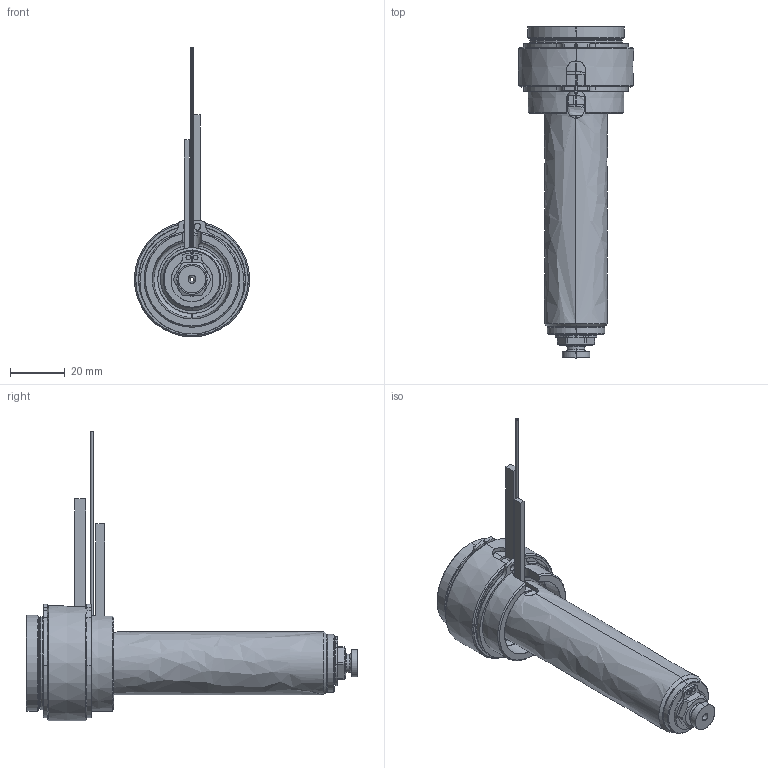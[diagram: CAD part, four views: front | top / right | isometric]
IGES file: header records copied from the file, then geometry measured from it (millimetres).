
Start section: SolidWorks IGES file using analytic representation for surfaces
Global section: file name: C:\Users\luca.EMPAD\Desktop\TEM\UGBE3502-S-A-5 [Ød-1.5 P-0 ØC-7.0].IGS; native system: SolidWorks 2012; preprocessor: SolidWorks 2012; author: luca; date: 120330.140432; units: millimetre
Bounding box: 42 x 121 x 105.6 mm (x, y, z)
Surface area: 28544.7 mm2 (no closed solid volume)
Topology: 0 solids, 0 shells, 184 faces, 3398 edges, 3398 vertices
Faces by surface type: revolution 117, bspline 67
